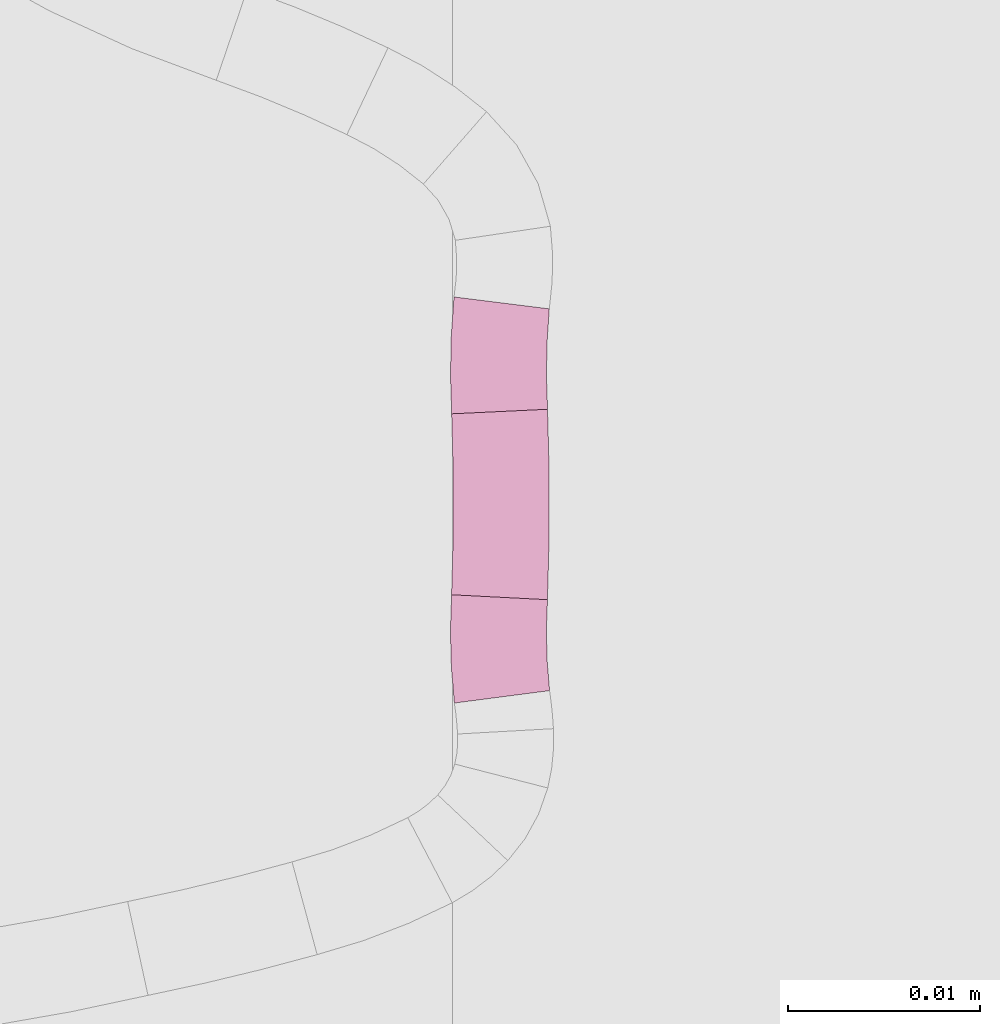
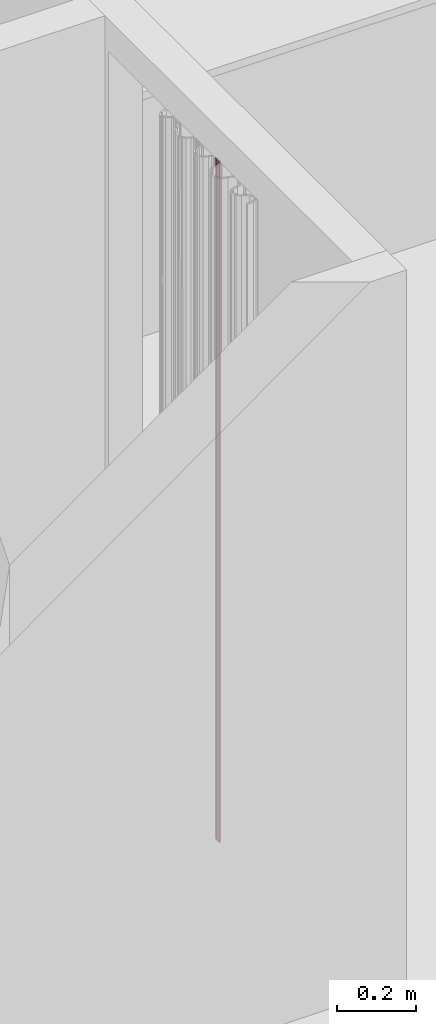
# One storey, part 311 of 418: 3 furnishings.
"""IFC2X3 building model written with IfcOpenShell, lengths in millimetres."""

from ifc_helpers import new_model, entity, si_unit, converted_unit, derived_unit, money_unit, point, direction, frame, frame_2d, origin_with_axes, place, context, subcontext, project, spatial, polyline, circle_curve, parameter, trimmed, segment, composite_curve, outline, extrude, material, type_object, element, save


model = new_model("IFC2X3")

# Units and contexts
model_context = context("Model", 3, precision=0.01, world=origin_with_axes(), true_north=direction((0.0, 1.0)))
body_context = subcontext(model_context, "Body", "Model", "MODEL_VIEW")
ifc_project = project(units=[si_unit("LENGTHUNIT", "METRE", prefix="MILLI"), si_unit("AREAUNIT", "SQUARE_METRE"), si_unit("VOLUMEUNIT", "CUBIC_METRE"), converted_unit("PLANEANGLEUNIT", "DEGREE", entity("IfcPlaneAngleMeasure", 0.0174532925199), si_unit("PLANEANGLEUNIT", "RADIAN"), dimensions=[0, 0, 0, 0, 0, 0, 0]), si_unit("SOLIDANGLEUNIT", "STERADIAN"), money_unit("EUR"), converted_unit("TIMEUNIT", "Year", entity("IfcTimeMeasure", 31556926.0), si_unit("TIMEUNIT", "SECOND"), dimensions=[0, 0, 1, 0, 0, 0, 0]), si_unit("MASSUNIT", "GRAM", prefix="KILO"), si_unit("THERMODYNAMICTEMPERATUREUNIT", "DEGREE_CELSIUS"), si_unit("LUMINOUSINTENSITYUNIT", "LUMEN"), si_unit("ENERGYUNIT", "JOULE", prefix="MEGA"), derived_unit("THERMALCONDUCTANCEUNIT", [(si_unit("POWERUNIT", "WATT"), 1), (si_unit("LENGTHUNIT", "METRE"), -1), (si_unit("THERMODYNAMICTEMPERATUREUNIT", "KELVIN"), -1)]), derived_unit("SPECIFICHEATCAPACITYUNIT", [(si_unit("ENERGYUNIT", "JOULE"), 1), (si_unit("MASSUNIT", "GRAM", prefix="KILO"), -1), (si_unit("THERMODYNAMICTEMPERATUREUNIT", "KELVIN"), -1)]), derived_unit("MASSDENSITYUNIT", [(si_unit("MASSUNIT", "GRAM", prefix="KILO"), 1), (si_unit("VOLUMEUNIT", "CUBIC_METRE"), -1)])], contexts=[model_context])

# Site, building, storey
site_placement = place(None, origin_with_axes())
site = spatial("IfcSite", under=ifc_project, at=site_placement, Name="Paldiski mnt 245/1, Tallinn, Harjumaa", CompositionType="COMPLEX")
building_placement = place(site_placement, origin_with_axes())
building = spatial("IfcBuilding", under=site, at=building_placement, Name="RKAS Hoone üldnimetus (kasutust iseloomustav) -> IFC Project Manager -> SOLIBRI", CompositionType="ELEMENT")
storey_placement = place(building_placement, origin_with_axes())
storey = spatial("IfcBuildingStorey", under=building, at=storey_placement, Name="Esimene korrus", CompositionType="ELEMENT", Elevation=0.0)

# Furnishings
ifc_material = material(Name="KON-00_GENEERILINE - KONSTRUKTSIOON")
furniture_type = type_object("IfcFurnitureType", Name="KON-00_GENEERILINE - KONSTRUKTSIOON 5", AssemblyPlace="NOTDEFINED")
furnishing_1_placement = place(storey_placement, frame((-44022.4394811, -2131.62889455, 0.0), z_axis=(0.0, 0.0, 1.0), x_axis=(-0.061877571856, -0.998083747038, 0.0)))
element("IfcFurnishingElement", 1, at=furnishing_1_placement, inside=storey, type_object=furniture_type, material=ifc_material, Name="SS-23", context=body_context, shape_type="SweptSolid", body=[
    extrude(outline(composite_curve([segment(trimmed(circle_curve(frame_2d((0.0, 32.1904429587), x_axis=(0.0, -1.0)), 32.1904429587), [point((0.0, 0.0)), parameter(0.0)], [point((5.62059319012, 0.4944881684)), parameter(10.0556378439)], True, "CARTESIAN"), True, "CONTINUOUS"), segment(polyline([(5.62059319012, 0.4944881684), (4.66751642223, 5.40360890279)]), True, "CONTINUOUS"), segment(trimmed(circle_curve(frame_2d((0.0, 32.1904429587), x_axis=(-0.00194422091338, -0.999998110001)), 27.1904429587), [point((4.66751642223, 5.40360890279)), parameter(9.99575538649)], [point((-0.0528642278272, 5.00005138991)), parameter(0.0)], False, "CARTESIAN"), True, "CONTINUOUS"), segment(polyline([(-0.0528642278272, 5.00005138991), (0.0, 0.0)]), True, "CONTINUOUS")], self_intersect=False)), origin_with_axes(), (0.0, 0.0, 1.0), 2100.0),
])
furnishing_2_placement = place(storey_placement, frame((-44022.4394811, -2131.62889455, 0.0), z_axis=(0.0, 0.0, 1.0), x_axis=(0.0395938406, 0.999215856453, 0.0)))
element("IfcFurnishingElement", 2, at=furnishing_2_placement, inside=storey, type_object=furniture_type, material=ifc_material, Name="SS-22", context=body_context, shape_type="SweptSolid", body=[
    extrude(outline(composite_curve([segment(trimmed(circle_curve(frame_2d((0.0, 120.042858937), x_axis=(-0.00046948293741, -0.999999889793)), 125.042858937), [point((-0.0587054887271, -4.9999862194)), parameter(0.0)], [point((9.85101394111, -4.61135918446)), parameter(4.54540614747)], True, "CARTESIAN"), True, "CONTINUOUS"), segment(polyline([(9.85101394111, -4.61135918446), (9.4166602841, 0.36991090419)]), True, "CONTINUOUS"), segment(trimmed(circle_curve(frame_2d((0.0, 120.042858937), x_axis=(0.0, -1.0)), 120.042858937), [point((9.4166602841, 0.36991090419)), parameter(4.49914114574)], [point((0.0, 0.0)), parameter(0.0)], False, "CARTESIAN"), True, "CONTINUOUS"), segment(polyline([(0.0, 0.0), (-0.0587054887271, -4.9999862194)]), True, "CONTINUOUS")], self_intersect=False)), origin_with_axes(), (0.0, 0.0, 1.0), 2100.0),
])
furnishing_3_placement = place(storey_placement, frame((-44022.3136213, -2116.1172461, 0.0), z_axis=(0.0, 0.0, 1.0), x_axis=(-0.0952671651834, -0.995451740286, 0.0)))
element("IfcFurnishingElement", 3, at=furnishing_3_placement, inside=storey, type_object=furniture_type, material=ifc_material, Name="SS-21", context=body_context, shape_type="SweptSolid", body=[
    extrude(outline(composite_curve([segment(trimmed(circle_curve(frame_2d((0.0, 40.4860539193), x_axis=(0.0, -1.0)), 40.4860539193), [point((0.0, 0.0)), parameter(0.0)], [point((6.07172089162, 0.457879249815)), parameter(8.6252272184)], True, "CARTESIAN"), True, "CONTINUOUS"), segment(polyline([(6.07172089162, 0.457879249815), (5.360194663, 5.40716659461)]), True, "CONTINUOUS"), segment(trimmed(circle_curve(frame_2d((0.0, 40.4860539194), x_axis=(0.00403644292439, -0.999991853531)), 35.4860539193), [point((5.360194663, 5.40716659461)), parameter(8.45655153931)], [point((0.143237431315, 5.00028908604)), parameter(0.0)], False, "CARTESIAN"), True, "CONTINUOUS"), segment(polyline([(0.143237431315, 5.00028908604), (0.0, 0.0)]), True, "CONTINUOUS")], self_intersect=False)), origin_with_axes(), (0.0, 0.0, 1.0), 2100.0),
])

save(model, "model.ifc")
